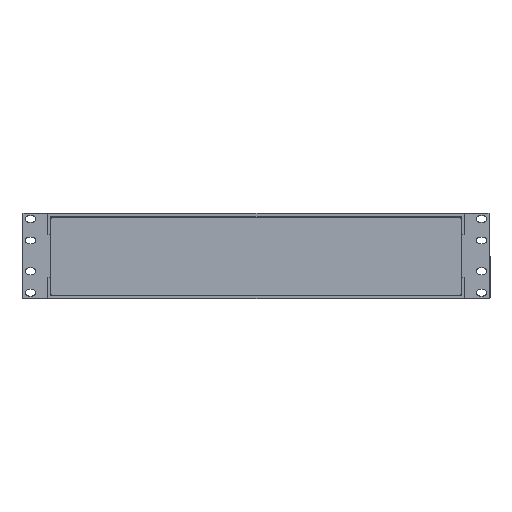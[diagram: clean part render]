
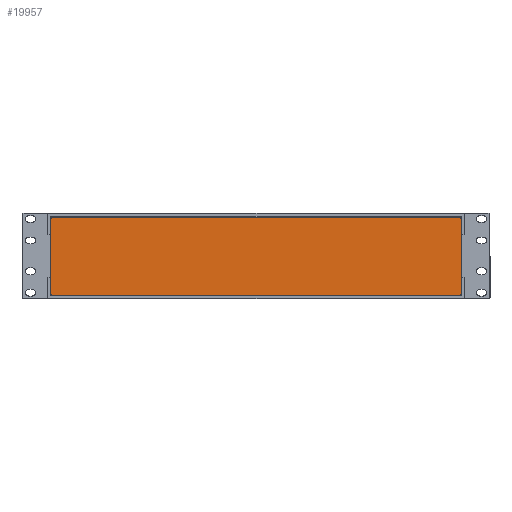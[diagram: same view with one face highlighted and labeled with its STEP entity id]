
A CAD part, top view. The second image highlights one B-rep face of the part: STEP entity #19957.
In plain terms, the highlighted planar face has unit normal (0, 0, 1) as drawn and (0, 1, 0) by its records, which use the part's own axes.
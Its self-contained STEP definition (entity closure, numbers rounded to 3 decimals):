
#143 = EDGE_CURVE ( 'NONE', #49163, #19778, #49026, .T. ) ;
#1386 = ORIENTED_EDGE ( 'NONE', *, *, #37083, .T. ) ;
#2024 = CARTESIAN_POINT ( 'NONE',  ( 209.9, 1.5, 41.15 ) ) ;
#2223 = CARTESIAN_POINT ( 'NONE',  ( 209.9, 1.5, -38.35 ) ) ;
#3391 = LINE ( 'NONE', #44478, #38082 ) ;
#4049 = DIRECTION ( 'NONE',  ( 0., 0., -1. ) ) ;
#4751 = CARTESIAN_POINT ( 'NONE',  ( -209.9, 1.5, -38.35 ) ) ;
#6910 = AXIS2_PLACEMENT_3D ( 'NONE', #17187, #33567, #49384 ) ;
#7701 = DIRECTION ( 'NONE',  ( 0., 0., 1. ) ) ;
#7952 = PLANE ( 'NONE',  #44220 ) ;
#8137 = ORIENTED_EDGE ( 'NONE', *, *, #27428, .T. ) ;
#8449 = FACE_OUTER_BOUND ( 'NONE', #31301, .T. ) ;
#9026 = VERTEX_POINT ( 'NONE', #30152 ) ;
#10194 = VECTOR ( 'NONE', #28616, 1000. ) ;
#10580 = LINE ( 'NONE', #43311, #45150 ) ;
#11052 = CARTESIAN_POINT ( 'NONE',  ( -209.9, 1.5, -39.85 ) ) ;
#13126 = DIRECTION ( 'NONE',  ( 0., 1., 0. ) ) ;
#15145 = DIRECTION ( 'NONE',  ( 0., 0., 1. ) ) ;
#15445 = VERTEX_POINT ( 'NONE', #44180 ) ;
#15852 = CARTESIAN_POINT ( 'NONE',  ( -209.9, 1.5, 39.65 ) ) ;
#17187 = CARTESIAN_POINT ( 'NONE',  ( 209.9, 1.5, 39.65 ) ) ;
#17235 = CARTESIAN_POINT ( 'NONE',  ( -211.4, 1.5, -39.85 ) ) ;
#18001 = VERTEX_POINT ( 'NONE', #29331 ) ;
#19627 = DIRECTION ( 'NONE',  ( 0., 1., 0. ) ) ;
#19669 = CIRCLE ( 'NONE', #6910, 1.5 ) ;
#19719 = AXIS2_PLACEMENT_3D ( 'NONE', #2223, #27238, #15145 ) ;
#19778 = VERTEX_POINT ( 'NONE', #23031 ) ;
#19957 = ADVANCED_FACE ( 'NONE', ( #8449 ), #7952, .T. ) ;
#20079 = CARTESIAN_POINT ( 'NONE',  ( -211.4, 1.5, 41.15 ) ) ;
#21012 = ORIENTED_EDGE ( 'NONE', *, *, #42866, .T. ) ;
#21255 = LINE ( 'NONE', #17235, #38655 ) ;
#23031 = CARTESIAN_POINT ( 'NONE',  ( -211.4, 1.5, -38.35 ) ) ;
#23265 = VERTEX_POINT ( 'NONE', #31177 ) ;
#24581 = CARTESIAN_POINT ( 'NONE',  ( -211.4, 1.5, 41.15 ) ) ;
#27238 = DIRECTION ( 'NONE',  ( 0., 1., 0. ) ) ;
#27428 = EDGE_CURVE ( 'NONE', #33821, #23265, #19669, .T. ) ;
#28125 = EDGE_CURVE ( 'NONE', #18001, #9026, #42830, .T. ) ;
#28616 = DIRECTION ( 'NONE',  ( 1., 0., 0. ) ) ;
#29331 = CARTESIAN_POINT ( 'NONE',  ( 211.4, 1.5, -38.35 ) ) ;
#30152 = CARTESIAN_POINT ( 'NONE',  ( 209.9, 1.5, -39.85 ) ) ;
#30289 = AXIS2_PLACEMENT_3D ( 'NONE', #15852, #19627, #35972 ) ;
#31177 = CARTESIAN_POINT ( 'NONE',  ( 211.4, 1.5, 39.65 ) ) ;
#31301 = EDGE_LOOP ( 'NONE', ( #1386, #8137, #42402, #39104, #50494, #44100, #52512, #21012 ) ) ;
#32190 = VERTEX_POINT ( 'NONE', #38345 ) ;
#33567 = DIRECTION ( 'NONE',  ( 0., 1., 0. ) ) ;
#33606 = DIRECTION ( 'NONE',  ( -1., 0., 0. ) ) ;
#33689 = LINE ( 'NONE', #24581, #10194 ) ;
#33821 = VERTEX_POINT ( 'NONE', #2024 ) ;
#34566 = CIRCLE ( 'NONE', #30289, 1.5 ) ;
#35972 = DIRECTION ( 'NONE',  ( 0., 0., 1. ) ) ;
#37083 = EDGE_CURVE ( 'NONE', #32190, #33821, #33689, .T. ) ;
#38082 = VECTOR ( 'NONE', #7701, 1000. ) ;
#38345 = CARTESIAN_POINT ( 'NONE',  ( -209.9, 1.5, 41.15 ) ) ;
#38655 = VECTOR ( 'NONE', #33606, 1000. ) ;
#39072 = EDGE_CURVE ( 'NONE', #9026, #49163, #21255, .T. ) ;
#39104 = ORIENTED_EDGE ( 'NONE', *, *, #28125, .T. ) ;
#42402 = ORIENTED_EDGE ( 'NONE', *, *, #52645, .T. ) ;
#42830 = CIRCLE ( 'NONE', #19719, 1.5 ) ;
#42866 = EDGE_CURVE ( 'NONE', #15445, #32190, #34566, .T. ) ;
#43311 = CARTESIAN_POINT ( 'NONE',  ( 211.4, 1.5, -39.85 ) ) ;
#44100 = ORIENTED_EDGE ( 'NONE', *, *, #143, .T. ) ;
#44180 = CARTESIAN_POINT ( 'NONE',  ( -211.4, 1.5, 39.65 ) ) ;
#44220 = AXIS2_PLACEMENT_3D ( 'NONE', #20079, #49281, #52522 ) ;
#44478 = CARTESIAN_POINT ( 'NONE',  ( -211.4, 1.5, -39.85 ) ) ;
#45150 = VECTOR ( 'NONE', #4049, 1000. ) ;
#46462 = AXIS2_PLACEMENT_3D ( 'NONE', #4751, #13126, #49085 ) ;
#49026 = CIRCLE ( 'NONE', #46462, 1.5 ) ;
#49085 = DIRECTION ( 'NONE',  ( 0., 0., 1. ) ) ;
#49163 = VERTEX_POINT ( 'NONE', #11052 ) ;
#49281 = DIRECTION ( 'NONE',  ( 0., 1., 0. ) ) ;
#49384 = DIRECTION ( 'NONE',  ( 0., 0., 1. ) ) ;
#50056 = EDGE_CURVE ( 'NONE', #19778, #15445, #3391, .T. ) ;
#50494 = ORIENTED_EDGE ( 'NONE', *, *, #39072, .T. ) ;
#52512 = ORIENTED_EDGE ( 'NONE', *, *, #50056, .T. ) ;
#52522 = DIRECTION ( 'NONE',  ( 0., 0., 1. ) ) ;
#52645 = EDGE_CURVE ( 'NONE', #23265, #18001, #10580, .T. ) ;
